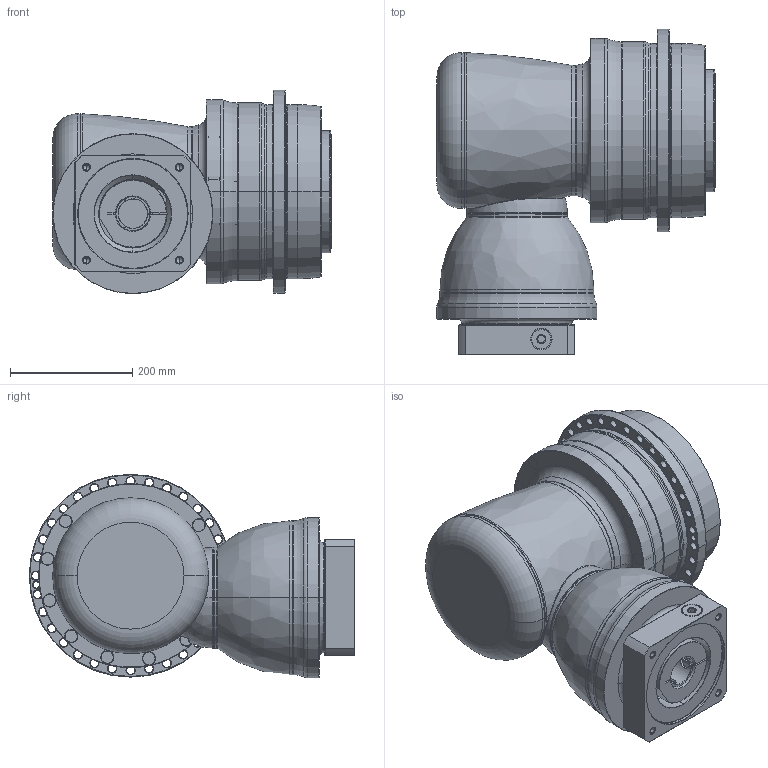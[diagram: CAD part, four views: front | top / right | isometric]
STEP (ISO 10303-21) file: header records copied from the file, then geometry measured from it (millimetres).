
FILE_DESCRIPTION((''),'2;1');
FILE_NAME('APK285_2ST_48-P0409B10201_ASM','2018-06-29T',('D00080'),(''),'PRO/ENGINEER BY PARAMETRIC TECHNOLOGY CORPORATION, 2008170','PRO/ENGINEER BY PARAMETRIC TECHNOLOGY CORPORATION, 2008170','');
FILE_SCHEMA(('CONFIG_CONTROL_DESIGN'));
Length unit declared in the file: millimetre
Products named in the file (13): P1008700002; P1802810001; P0278801003; P0359801103; P1211800001; P1315700001; P1007701001; P1318701301; P0503B00016; P0912753001; P0409B10201; 21711426021; APK285_2ST_48-P0409B10201_ASM
Assembly tree (12 placements, depth 2):
  APK285_2ST_48-P0409B10201_ASM
    P1008700002
    P1802810001
    P0278801003
    P0359801103
    P1211800001
    P1315700001
    P1007701001
    P1318701301
    P0503B00016
    P0912753001
    P0409B10201
    21711426021
Bounding box: 455.5 x 533 x 333 mm (x, y, z)
Volume: 34821232.6 mm3; surface area: 1947550 mm2
Topology: 13 solids, 36 shells, 906 faces, 2051 edges, 1242 vertices
Faces by surface type: cylinder 371, cone 270, plane 151, torus 84, bspline 28, sphere 2
Entity records: 33339 total; most frequent: CARTESIAN_POINT 12135, DIRECTION 4900, ORIENTED_EDGE 3936, AXIS2_PLACEMENT_3D 2096, EDGE_CURVE 2015, VERTEX_POINT 1242, CIRCLE 1181, EDGE_LOOP 1097
